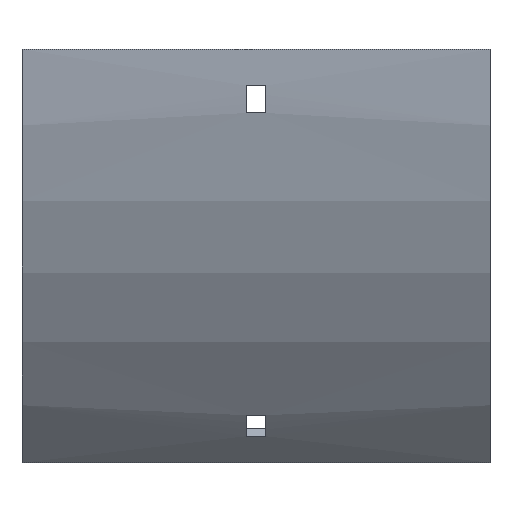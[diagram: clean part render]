
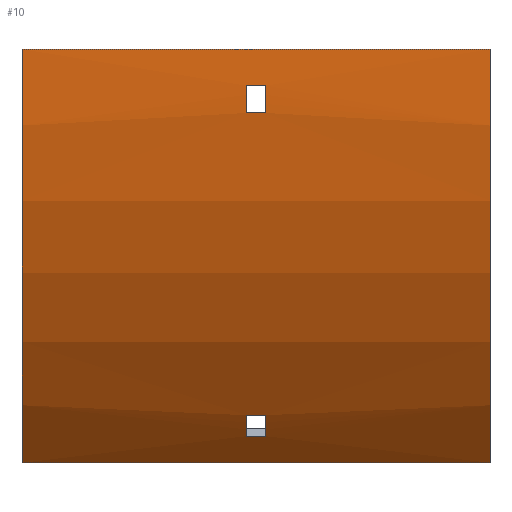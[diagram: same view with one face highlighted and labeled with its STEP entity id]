
A CAD part, front view. The second image highlights one B-rep face of the part: STEP entity #10.
In plain terms, the highlighted cylindrical face has radius 192.5 mm (diameter 385 mm), a partial arc.
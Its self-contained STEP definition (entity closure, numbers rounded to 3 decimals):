
#9 = EDGE_CURVE ( 'NONE', #1495, #1309, #1077, .T. ) ;
#10 = ADVANCED_FACE ( 'NONE', ( #711, #182, #586 ), #1480, .T. ) ;
#15 = DIRECTION ( 'NONE',  ( 0., 0., -1. ) ) ;
#61 = DIRECTION ( 'NONE',  ( 1., 0., 0. ) ) ;
#68 = VERTEX_POINT ( 'NONE', #754 ) ;
#112 = DIRECTION ( 'NONE',  ( -1., 0., 0. ) ) ;
#124 = ORIENTED_EDGE ( 'NONE', *, *, #9, .T. ) ;
#145 = CARTESIAN_POINT ( 'NONE',  ( -77., 100., 0. ) ) ;
#182 = FACE_BOUND ( 'NONE', #1520, .T. ) ;
#187 = ORIENTED_EDGE ( 'NONE', *, *, #480, .T. ) ;
#188 = CARTESIAN_POINT ( 'NONE',  ( -3.25, 100., 0. ) ) ;
#205 = CARTESIAN_POINT ( 'NONE',  ( 3.25, 100., 0. ) ) ;
#217 = CARTESIAN_POINT ( 'NONE',  ( 3.25, -91.351, -21. ) ) ;
#236 = AXIS2_PLACEMENT_3D ( 'NONE', #761, #905, #1670 ) ;
#244 = CARTESIAN_POINT ( 'NONE',  ( 77., -92.126, -12. ) ) ;
#256 = CARTESIAN_POINT ( 'NONE',  ( 77., -36.118, -136.118 ) ) ;
#276 = CARTESIAN_POINT ( 'NONE',  ( 3.25, -92.126, -12. ) ) ;
#279 = CIRCLE ( 'NONE', #236, 192.5 ) ;
#294 = EDGE_LOOP ( 'NONE', ( #1103, #717, #607, #738 ) ) ;
#314 = ORIENTED_EDGE ( 'NONE', *, *, #741, .T. ) ;
#351 = DIRECTION ( 'NONE',  ( 1., 0., 0. ) ) ;
#367 = AXIS2_PLACEMENT_3D ( 'NONE', #1674, #881, #901 ) ;
#397 = AXIS2_PLACEMENT_3D ( 'NONE', #188, #665, #579 ) ;
#409 = CARTESIAN_POINT ( 'NONE',  ( 77., -92.5, 0. ) ) ;
#428 = DIRECTION ( 'NONE',  ( 0., 0., 1. ) ) ;
#442 = CARTESIAN_POINT ( 'NONE',  ( -77., -36.118, -136.118 ) ) ;
#445 = AXIS2_PLACEMENT_3D ( 'NONE', #145, #1193, #15 ) ;
#454 = CARTESIAN_POINT ( 'NONE',  ( -77., -92.5, 0. ) ) ;
#477 = LINE ( 'NONE', #244, #860 ) ;
#480 = EDGE_CURVE ( 'NONE', #1524, #854, #1540, .T. ) ;
#487 = DIRECTION ( 'NONE',  ( -1., 0., 0. ) ) ;
#494 = CARTESIAN_POINT ( 'NONE',  ( 77., -50.155, -120.456 ) ) ;
#554 = CARTESIAN_POINT ( 'NONE',  ( 77., 100., 0. ) ) ;
#579 = DIRECTION ( 'NONE',  ( 0., 0., 1. ) ) ;
#582 = VECTOR ( 'NONE', #1453, 1000. ) ;
#586 = FACE_BOUND ( 'NONE', #294, .T. ) ;
#590 = VERTEX_POINT ( 'NONE', #1054 ) ;
#607 = ORIENTED_EDGE ( 'NONE', *, *, #1360, .F. ) ;
#621 = LINE ( 'NONE', #494, #1522 ) ;
#624 = EDGE_CURVE ( 'NONE', #1363, #792, #1304, .T. ) ;
#655 = CIRCLE ( 'NONE', #1322, 192.5 ) ;
#657 = VECTOR ( 'NONE', #112, 1000. ) ;
#665 = DIRECTION ( 'NONE',  ( -1., 0., 0. ) ) ;
#668 = ORIENTED_EDGE ( 'NONE', *, *, #1521, .T. ) ;
#711 = FACE_OUTER_BOUND ( 'NONE', #1561, .T. ) ;
#716 = DIRECTION ( 'NONE',  ( 0., 0., -1. ) ) ;
#717 = ORIENTED_EDGE ( 'NONE', *, *, #1302, .F. ) ;
#738 = ORIENTED_EDGE ( 'NONE', *, *, #1462, .F. ) ;
#741 = EDGE_CURVE ( 'NONE', #590, #1551, #1659, .T. ) ;
#751 = CARTESIAN_POINT ( 'NONE',  ( 77., -92.5, 0. ) ) ;
#754 = CARTESIAN_POINT ( 'NONE',  ( 3.25, -50.155, -120.456 ) ) ;
#761 = CARTESIAN_POINT ( 'NONE',  ( 77., 100., 0. ) ) ;
#770 = EDGE_CURVE ( 'NONE', #1309, #590, #1225, .T. ) ;
#785 = ORIENTED_EDGE ( 'NONE', *, *, #770, .T. ) ;
#792 = VERTEX_POINT ( 'NONE', #442 ) ;
#812 = CARTESIAN_POINT ( 'NONE',  ( 77., -91.351, -21. ) ) ;
#849 = CARTESIAN_POINT ( 'NONE',  ( -3.25, 100., 0. ) ) ;
#854 = VERTEX_POINT ( 'NONE', #454 ) ;
#860 = VECTOR ( 'NONE', #351, 1000. ) ;
#879 = EDGE_CURVE ( 'NONE', #1344, #1695, #655, .T. ) ;
#881 = DIRECTION ( 'NONE',  ( -1., 0., 0. ) ) ;
#901 = DIRECTION ( 'NONE',  ( 0., 0., 1. ) ) ;
#905 = DIRECTION ( 'NONE',  ( 1., 0., 0. ) ) ;
#913 = CIRCLE ( 'NONE', #445, 192.5 ) ;
#914 = AXIS2_PLACEMENT_3D ( 'NONE', #554, #1342, #428 ) ;
#916 = VECTOR ( 'NONE', #1106, 1000. ) ;
#1054 = CARTESIAN_POINT ( 'NONE',  ( -3.25, -91.351, -21. ) ) ;
#1070 = CARTESIAN_POINT ( 'NONE',  ( 3.25, -44.339, -127.368 ) ) ;
#1077 = CIRCLE ( 'NONE', #1660, 192.5 ) ;
#1099 = CIRCLE ( 'NONE', #367, 192.5 ) ;
#1101 = VERTEX_POINT ( 'NONE', #1070 ) ;
#1103 = ORIENTED_EDGE ( 'NONE', *, *, #879, .F. ) ;
#1106 = DIRECTION ( 'NONE',  ( -1., 0., 0. ) ) ;
#1109 = ORIENTED_EDGE ( 'NONE', *, *, #624, .F. ) ;
#1123 = VECTOR ( 'NONE', #1380, 1000. ) ;
#1134 = ORIENTED_EDGE ( 'NONE', *, *, #1292, .F. ) ;
#1155 = CARTESIAN_POINT ( 'NONE',  ( -3.25, -44.339, -127.368 ) ) ;
#1193 = DIRECTION ( 'NONE',  ( 1., 0., 0. ) ) ;
#1207 = CARTESIAN_POINT ( 'NONE',  ( -3.25, -92.126, -12. ) ) ;
#1225 = LINE ( 'NONE', #812, #916 ) ;
#1284 = ORIENTED_EDGE ( 'NONE', *, *, #1335, .T. ) ;
#1292 = EDGE_CURVE ( 'NONE', #1524, #1363, #279, .T. ) ;
#1302 = EDGE_CURVE ( 'NONE', #68, #1344, #621, .T. ) ;
#1304 = LINE ( 'NONE', #256, #657 ) ;
#1309 = VERTEX_POINT ( 'NONE', #217 ) ;
#1322 = AXIS2_PLACEMENT_3D ( 'NONE', #849, #1532, #716 ) ;
#1332 = LINE ( 'NONE', #1430, #582 ) ;
#1335 = EDGE_CURVE ( 'NONE', #1551, #1495, #477, .T. ) ;
#1342 = DIRECTION ( 'NONE',  ( -1., 0., 0. ) ) ;
#1344 = VERTEX_POINT ( 'NONE', #1404 ) ;
#1360 = EDGE_CURVE ( 'NONE', #1101, #68, #1099, .T. ) ;
#1363 = VERTEX_POINT ( 'NONE', #1425 ) ;
#1380 = DIRECTION ( 'NONE',  ( -1., 0., 0. ) ) ;
#1404 = CARTESIAN_POINT ( 'NONE',  ( -3.25, -50.155, -120.456 ) ) ;
#1425 = CARTESIAN_POINT ( 'NONE',  ( 77., -36.118, -136.118 ) ) ;
#1430 = CARTESIAN_POINT ( 'NONE',  ( 77., -44.339, -127.368 ) ) ;
#1453 = DIRECTION ( 'NONE',  ( 1., 0., 0. ) ) ;
#1462 = EDGE_CURVE ( 'NONE', #1695, #1101, #1332, .T. ) ;
#1480 = CYLINDRICAL_SURFACE ( 'NONE', #914, 192.5 ) ;
#1495 = VERTEX_POINT ( 'NONE', #276 ) ;
#1501 = DIRECTION ( 'NONE',  ( 0., 0., -1. ) ) ;
#1520 = EDGE_LOOP ( 'NONE', ( #785, #314, #1284, #124 ) ) ;
#1521 = EDGE_CURVE ( 'NONE', #854, #792, #913, .T. ) ;
#1522 = VECTOR ( 'NONE', #487, 1000. ) ;
#1524 = VERTEX_POINT ( 'NONE', #409 ) ;
#1532 = DIRECTION ( 'NONE',  ( 1., 0., 0. ) ) ;
#1540 = LINE ( 'NONE', #751, #1123 ) ;
#1551 = VERTEX_POINT ( 'NONE', #1207 ) ;
#1561 = EDGE_LOOP ( 'NONE', ( #668, #1109, #1134, #187 ) ) ;
#1659 = CIRCLE ( 'NONE', #397, 192.5 ) ;
#1660 = AXIS2_PLACEMENT_3D ( 'NONE', #205, #61, #1501 ) ;
#1670 = DIRECTION ( 'NONE',  ( 0., 0., -1. ) ) ;
#1674 = CARTESIAN_POINT ( 'NONE',  ( 3.25, 100., 0. ) ) ;
#1695 = VERTEX_POINT ( 'NONE', #1155 ) ;
